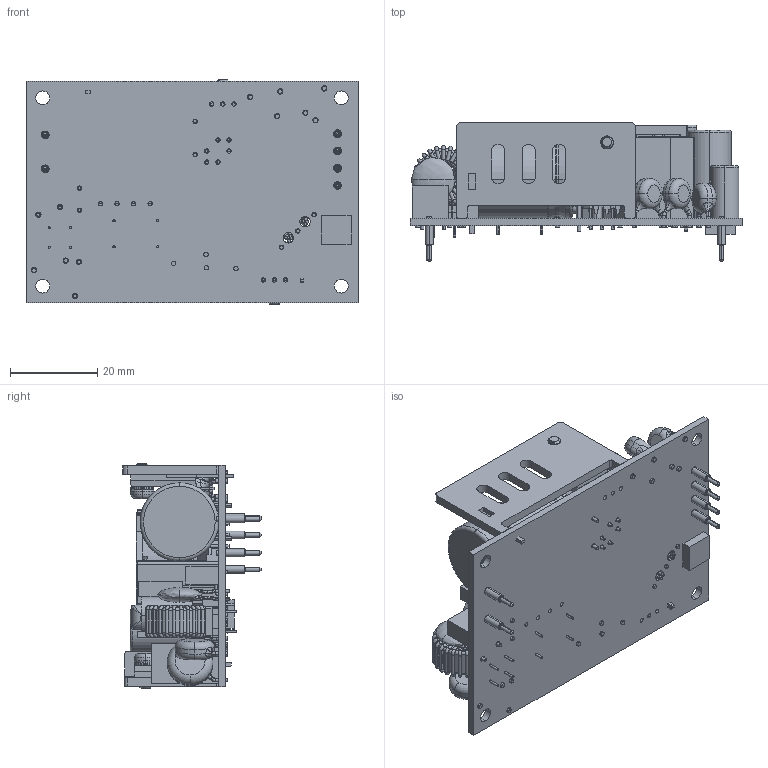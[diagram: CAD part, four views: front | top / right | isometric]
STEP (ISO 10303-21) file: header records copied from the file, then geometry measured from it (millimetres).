
FILE_DESCRIPTION (( 'STEP AP203' ), '1' );
FILE_NAME ('CFM70SXXX-P 2023.02.08.STEP', '2023-11-24T06:06:43', ( 'cincon' ), ( '' ), 'SwSTEP 2.0', 'SolidWorks 2020', '' );
FILE_SCHEMA (( 'CONFIG_CONTROL_DESIGN' ));
Products named in the file (1): CFM70SXXX-P 2023.02.08
Bounding box: 76.2 x 31.8 x 51.56 mm (x, y, z)
Surface area: 33126.7 mm2 (no closed solid volume)
Topology: 0 solids, 22 shells, 2121 faces, 5984 edges, 3853 vertices
Faces by surface type: cylinder 928, plane 682, torus 367, bspline 109, cone 35
Entity records: 83384 total; most frequent: CARTESIAN_POINT 28292, ORIENTED_EDGE 11936, DIRECTION 11595, EDGE_CURVE 5972, AXIS2_PLACEMENT_3D 4619, VERTEX_POINT 3853, CIRCLE 2606, VECTOR 2357
